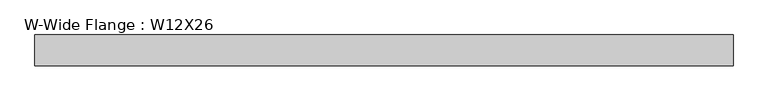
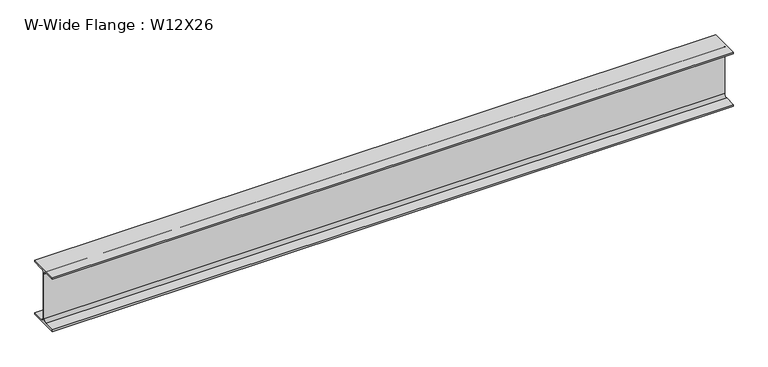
"""IFC4 building model written with IfcOpenShell, lengths in millimetres: beam geometry, W-Wide Flange : W12X26."""

from ifc_helpers import new_model, si_unit, point, frame, frame_2d, origin, place, context, project, spatial, polyline, circle_curve, trimmed, segment, composite_curve, outline, extrude, source, transform, mapped, element, save


def w_wide_flange_w12x26_ca16ca15(model_context):
    return source(origin(), model_context, "Body", "SweptSolid", [
        extrude(outline(composite_curve([segment(polyline([(82.4011719, -145.5539063), (82.4011719, -155.178125), (-82.4011719, -155.178125), (-82.4011719, -145.5539063), (-20.2902344, -145.5539063)]), True, "CONTINUOUS"), segment(trimmed(circle_curve(frame_2d((-20.2902344, -128.190625)), 17.3632812), [point((-20.2902344, -145.5539063))], [point((-2.9269531, -128.190625))], True, "CARTESIAN"), True, "CONTINUOUS"), segment(polyline([(-2.9269531, -128.190625), (-2.9269531, 128.190625)]), True, "CONTINUOUS"), segment(trimmed(circle_curve(frame_2d((-20.2902344, 128.190625)), 17.3632812), [point((-2.9269531, 128.190625))], [point((-20.2902344, 145.5539062))], True, "CARTESIAN"), True, "CONTINUOUS"), segment(polyline([(-20.2902344, 145.5539062), (-82.4011719, 145.5539062), (-82.4011719, 155.178125), (82.4011719, 155.178125), (82.4011719, 145.5539062), (20.2902344, 145.5539062)]), True, "CONTINUOUS"), segment(trimmed(circle_curve(frame_2d((20.2902344, 128.190625)), 17.3632812), [point((20.2902344, 145.5539062))], [point((2.9269531, 128.190625))], True, "CARTESIAN"), True, "CONTINUOUS"), segment(polyline([(2.9269531, 128.190625), (2.9269531, -128.190625)]), True, "CONTINUOUS"), segment(trimmed(circle_curve(frame_2d((20.2902344, -128.190625)), 17.3632812), [point((2.9269531, -128.190625))], [point((20.2902344, -145.5539063))], True, "CARTESIAN"), True, "CONTINUOUS"), segment(polyline([(20.2902344, -145.5539063), (82.4011719, -145.5539063)]), True, "CONTINUOUS")], self_intersect=False)), frame((-1863.6945215, 0.0, 0.0), z_axis=(1.0, 0.0, 0.0), x_axis=(0.0, 1.0, 0.0)), (0.0, 0.0, 1.0), 3704.7220771),
    ])


if __name__ == "__main__":
    model = new_model("IFC4")
    model_context = context("Model", 3, world=origin())
    ifc_project = project(units=[si_unit("LENGTHUNIT", "METRE", prefix="MILLI")], contexts=[model_context])
    site = spatial("IfcSite", under=ifc_project)
    building = spatial("IfcBuilding", under=site)
    placement = place(None, origin())
    w_wide_flange_w12x26_shape = w_wide_flange_w12x26_ca16ca15(model_context)
    element("IfcBeam", 1, ObjectType="W-Wide Flange : W12X26", at=placement, inside=building, context=model_context, shape_type="MappedRepresentation", body=[
        mapped(w_wide_flange_w12x26_shape, transform((0.0, 0.0, 0.0), x_axis=(1.0, 0.0, 0.0), y_axis=(0.0, 1.0, 0.0), z_axis=(0.0, 0.0, 1.0))),
    ])
    save(model, "model.ifc")
